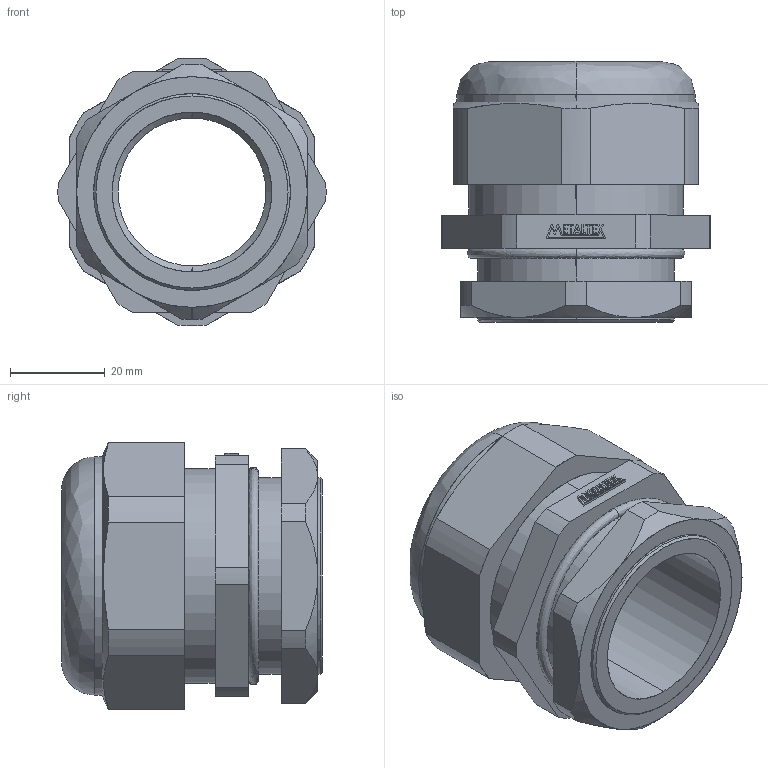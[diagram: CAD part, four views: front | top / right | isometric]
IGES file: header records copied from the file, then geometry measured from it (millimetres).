
Start section: SolidWorks IGES file using analytic representation for surfaces
Global section: file name: D:\X - Arquivos\PROEX\Empresas\P11 - METALTEX\01 - Produtos\IGES\Terceira remessa\Etapa 2\CH-B1.1_4.IGS; native system: SolidWorks 2012; preprocessor: SolidWorks 2012; author: Usuario; date: 180207.125129; units: millimetre
Bounding box: 56.74 x 55.2 x 56.7 mm (x, y, z)
Surface area: 19824.9 mm2 (no closed solid volume)
Topology: 0 solids, 0 shells, 174 faces, 1618 edges, 1618 vertices
Faces by surface type: bspline 125, revolution 49
